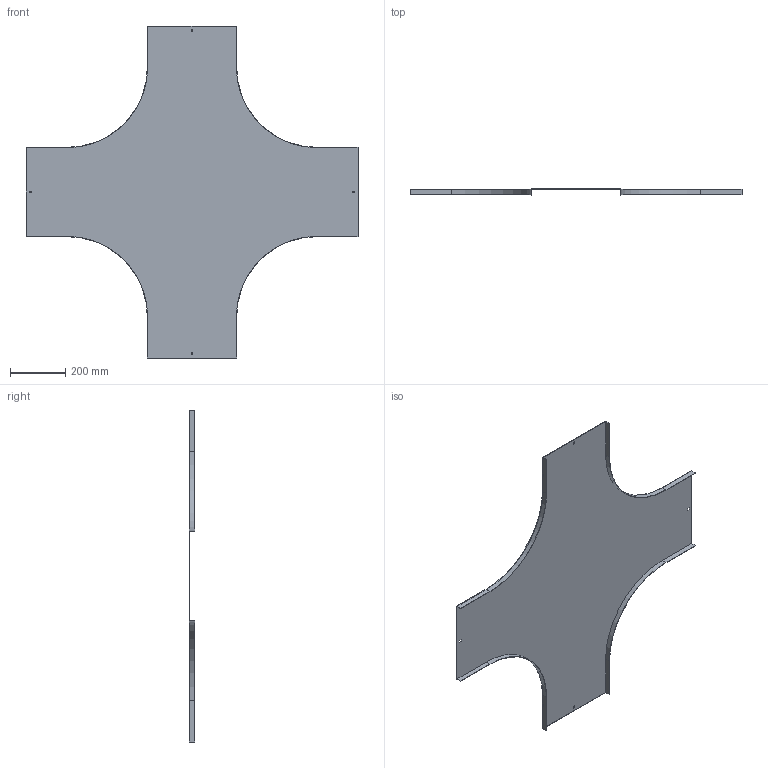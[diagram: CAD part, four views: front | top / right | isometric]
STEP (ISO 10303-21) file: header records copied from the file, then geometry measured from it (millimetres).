
FILE_DESCRIPTION (( 'STEP AP214' ), '1' );
FILE_NAME ('17N3P300.step', '2025-02-21T13:56:59', ( '' ), ( '' ), 'SwSTEP 2.0', 'SolidWorks 2023', '' );
FILE_SCHEMA (( 'AUTOMOTIVE_DESIGN' ));
Length unit declared in the file: millimetre
Products named in the file (1): 17N3P300
Bounding box: 1200 x 20 x 1200 mm (x, y, z)
Volume: 1196859.4 mm3; surface area: 1602677.6 mm2
Topology: 1 solids, 1 shells, 50 faces, 144 edges, 96 vertices
Faces by surface type: plane 42, cylinder 8
Entity records: 1663 total; most frequent: CARTESIAN_POINT 291, ORIENTED_EDGE 288, DIRECTION 262, EDGE_CURVE 144, LINE 128, VECTOR 128, VERTEX_POINT 96, AXIS2_PLACEMENT_3D 67
